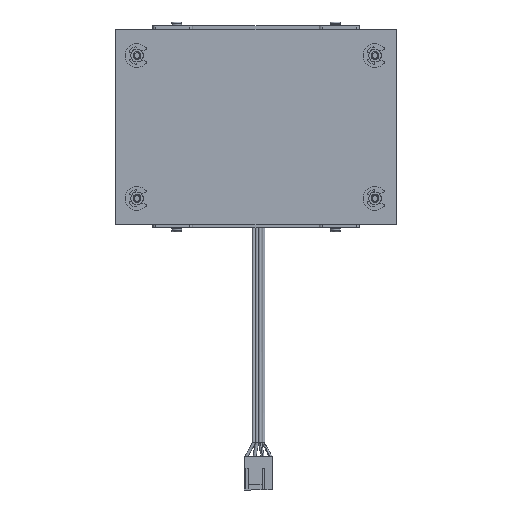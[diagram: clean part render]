
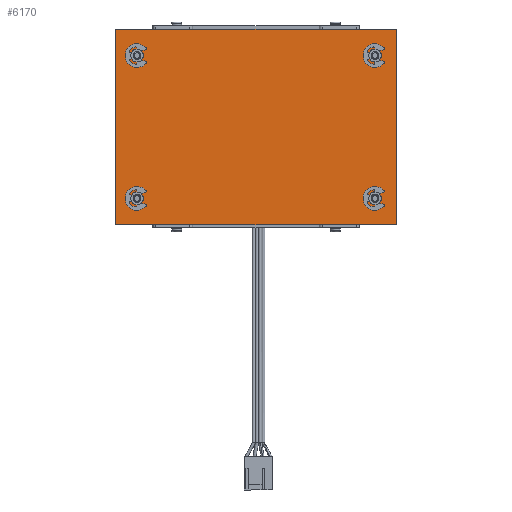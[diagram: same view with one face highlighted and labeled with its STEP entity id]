
A CAD part, front view. The second image highlights one B-rep face of the part: STEP entity #6170.
In plain terms, the highlighted planar face has unit normal (0, -1, 0).
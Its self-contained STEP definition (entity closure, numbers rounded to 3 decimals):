
#5412=DIRECTION('',(0.,0.,-1.));
#5413=VECTOR('',#5412,74.);
#5414=CARTESIAN_POINT('',(22.012,56.849,-94.851));
#5415=LINE('',#5414,#5413);
#5416=DIRECTION('',(-1.,0.,0.));
#5417=VECTOR('',#5416,106.);
#5418=CARTESIAN_POINT('',(128.011,56.849,-94.851));
#5419=LINE('',#5418,#5417);
#5420=DIRECTION('',(0.,0.,1.));
#5421=VECTOR('',#5420,74.);
#5422=CARTESIAN_POINT('',(128.011,56.849,-168.851));
#5423=LINE('',#5422,#5421);
#5424=DIRECTION('',(1.,0.,0.));
#5425=VECTOR('',#5424,106.);
#5426=CARTESIAN_POINT('',(22.012,56.849,-168.851));
#5427=LINE('',#5426,#5425);
#5428=CARTESIAN_POINT('',(120.017,56.849,-104.851));
#5429=DIRECTION('',(0.,1.,0.));
#5430=DIRECTION('',(0.,0.,1.));
#5431=AXIS2_PLACEMENT_3D('',#5428,#5429,#5430);
#5433=CARTESIAN_POINT('',(120.017,56.849,-104.851));
#5434=DIRECTION('',(0.,1.,0.));
#5435=DIRECTION('',(0.,0.,-1.));
#5436=AXIS2_PLACEMENT_3D('',#5433,#5434,#5435);
#5438=CARTESIAN_POINT('',(120.017,56.849,-158.851));
#5439=DIRECTION('',(0.,1.,0.));
#5440=DIRECTION('',(0.,0.,1.));
#5441=AXIS2_PLACEMENT_3D('',#5438,#5439,#5440);
#5443=CARTESIAN_POINT('',(120.017,56.849,-158.851));
#5444=DIRECTION('',(0.,1.,0.));
#5445=DIRECTION('',(0.,0.,-1.));
#5446=AXIS2_PLACEMENT_3D('',#5443,#5444,#5445);
#5448=CARTESIAN_POINT('',(30.017,56.849,-158.851));
#5449=DIRECTION('',(0.,1.,0.));
#5450=DIRECTION('',(0.,0.,1.));
#5451=AXIS2_PLACEMENT_3D('',#5448,#5449,#5450);
#5453=CARTESIAN_POINT('',(30.017,56.849,-158.851));
#5454=DIRECTION('',(0.,1.,0.));
#5455=DIRECTION('',(0.,0.,-1.));
#5456=AXIS2_PLACEMENT_3D('',#5453,#5454,#5455);
#5458=CARTESIAN_POINT('',(30.017,56.849,-104.851));
#5459=DIRECTION('',(0.,1.,0.));
#5460=DIRECTION('',(0.,0.,1.));
#5461=AXIS2_PLACEMENT_3D('',#5458,#5459,#5460);
#5463=CARTESIAN_POINT('',(30.017,56.849,-104.851));
#5464=DIRECTION('',(0.,1.,0.));
#5465=DIRECTION('',(0.,0.,-1.));
#5466=AXIS2_PLACEMENT_3D('',#5463,#5464,#5465);
#5824=CARTESIAN_POINT('',(120.017,56.849,-107.301));
#5826=VERTEX_POINT('',#5824);
#5860=CARTESIAN_POINT('',(120.017,56.849,-156.401));
#5861=VERTEX_POINT('',#5860);
#5874=CARTESIAN_POINT('',(120.017,56.849,-161.301));
#5875=VERTEX_POINT('',#5874);
#5886=CARTESIAN_POINT('',(120.017,56.849,-102.401));
#5888=VERTEX_POINT('',#5886);
#5890=CARTESIAN_POINT('',(22.012,56.849,-94.851));
#5891=VERTEX_POINT('',#5890);
#5924=CARTESIAN_POINT('',(30.017,56.849,-107.301));
#5925=VERTEX_POINT('',#5924);
#5928=CARTESIAN_POINT('',(30.017,56.849,-161.301));
#5929=CARTESIAN_POINT('',(30.017,56.849,-156.401));
#5930=VERTEX_POINT('',#5928);
#5931=VERTEX_POINT('',#5929);
#5938=CARTESIAN_POINT('',(22.012,56.849,-168.851));
#5939=VERTEX_POINT('',#5938);
#5944=CARTESIAN_POINT('',(128.011,56.849,-94.851));
#5945=VERTEX_POINT('',#5944);
#5962=CARTESIAN_POINT('',(30.017,56.849,-102.401));
#5963=VERTEX_POINT('',#5962);
#5974=CARTESIAN_POINT('',(128.011,56.849,-168.851));
#5975=VERTEX_POINT('',#5974);
#6133=CARTESIAN_POINT('',(75.011,56.849,-131.851));
#6134=DIRECTION('',(0.,1.,0.));
#6135=DIRECTION('',(0.,0.,1.));
#6136=AXIS2_PLACEMENT_3D('',#6133,#6134,#6135);
#6137=PLANE('',#6136);
#6139=ORIENTED_EDGE('',*,*,#6138,.F.);
#6141=ORIENTED_EDGE('',*,*,#6140,.F.);
#6143=ORIENTED_EDGE('',*,*,#6142,.F.);
#6144=ORIENTED_EDGE('',*,*,#6113,.F.);
#6145=EDGE_LOOP('',(#6139,#6141,#6143,#6144));
#6146=FACE_OUTER_BOUND('',#6145,.F.);
#6148=ORIENTED_EDGE('',*,*,#6147,.F.);
#6149=ORIENTED_EDGE('',*,*,#5985,.F.);
#6150=EDGE_LOOP('',(#6148,#6149));
#6151=FACE_BOUND('',#6150,.F.);
#6153=ORIENTED_EDGE('',*,*,#6152,.F.);
#6155=ORIENTED_EDGE('',*,*,#6154,.F.);
#6156=EDGE_LOOP('',(#6153,#6155));
#6157=FACE_BOUND('',#6156,.F.);
#6159=ORIENTED_EDGE('',*,*,#6158,.F.);
#6161=ORIENTED_EDGE('',*,*,#6160,.F.);
#6162=EDGE_LOOP('',(#6159,#6161));
#6163=FACE_BOUND('',#6162,.F.);
#6165=ORIENTED_EDGE('',*,*,#6164,.F.);
#6167=ORIENTED_EDGE('',*,*,#6166,.F.);
#6168=EDGE_LOOP('',(#6165,#6167));
#6169=FACE_BOUND('',#6168,.F.);
#6170=ADVANCED_FACE('',(#6146,#6151,#6157,#6163,#6169),#6137,.F.);
#5432=CIRCLE('',#5431,2.45);
#5437=CIRCLE('',#5436,2.45);
#5442=CIRCLE('',#5441,2.45);
#5447=CIRCLE('',#5446,2.45);
#5452=CIRCLE('',#5451,2.45);
#5457=CIRCLE('',#5456,2.45);
#5462=CIRCLE('',#5461,2.45);
#5467=CIRCLE('',#5466,2.45);
#5985=EDGE_CURVE('',#5826,#5888,#5437,.T.);
#6113=EDGE_CURVE('',#5939,#5975,#5427,.T.);
#6138=EDGE_CURVE('',#5891,#5939,#5415,.T.);
#6140=EDGE_CURVE('',#5945,#5891,#5419,.T.);
#6142=EDGE_CURVE('',#5975,#5945,#5423,.T.);
#6147=EDGE_CURVE('',#5888,#5826,#5432,.T.);
#6152=EDGE_CURVE('',#5861,#5875,#5442,.T.);
#6154=EDGE_CURVE('',#5875,#5861,#5447,.T.);
#6158=EDGE_CURVE('',#5931,#5930,#5452,.T.);
#6160=EDGE_CURVE('',#5930,#5931,#5457,.T.);
#6164=EDGE_CURVE('',#5963,#5925,#5462,.T.);
#6166=EDGE_CURVE('',#5925,#5963,#5467,.T.);
